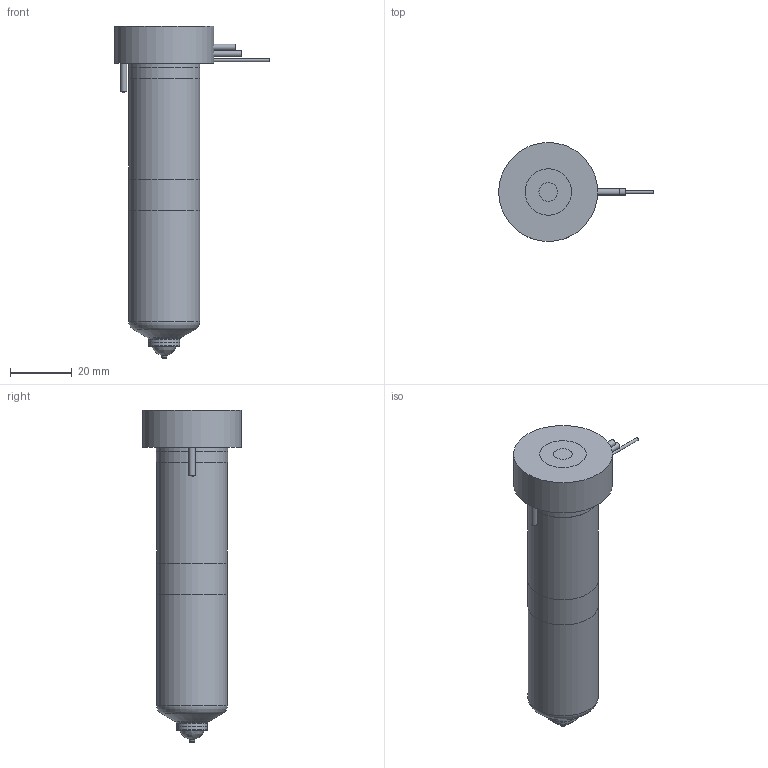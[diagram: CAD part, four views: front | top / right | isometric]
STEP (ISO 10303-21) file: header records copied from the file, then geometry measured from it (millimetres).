
FILE_DESCRIPTION(/* description */ (''),/* implementation_level */ '2;1');
FILE_NAME(/* name */ 'MXOV13095_200C_b',/* time_stamp */ '2007-01-18T09:49:35+13:00',/* author */ (''),/* organization */ (''),/* preprocessor_version */ 'ST-DEVELOPER v9',/* originating_system */ 'UGS - NX 4.0',/* authorisation */ '');
FILE_SCHEMA (('CONFIG_CONTROL_DESIGN'));
Length unit declared in the file: millimetre
Products named in the file (1): MXOV13095_200C_b
Bounding box: 49.95 x 32 x 107.25 mm (x, y, z)
Volume: 80779.4 mm3; surface area: 19266.2 mm2
Topology: 7 solids, 7 shells, 90 faces, 170 edges, 108 vertices
Faces by surface type: plane 37, cylinder 29, cone 13, torus 8, bspline 3
Full cylindrical faces by diameter (mm): 1 x3, 2 x5, 6 x1, 6.4 x1, 6.5 x1, 9.61 x1, 10.01 x2, 12.6 x1, 18.8 x1, 22.9 x2, 23 x2, 32 x1
Entity records: 2168 total; most frequent: CARTESIAN_POINT 462, DIRECTION 366, ORIENTED_EDGE 236, AXIS2_PLACEMENT_3D 170, EDGE_LOOP 146, EDGE_CURVE 118, VERTEX_POINT 99, ADVANCED_FACE 90
